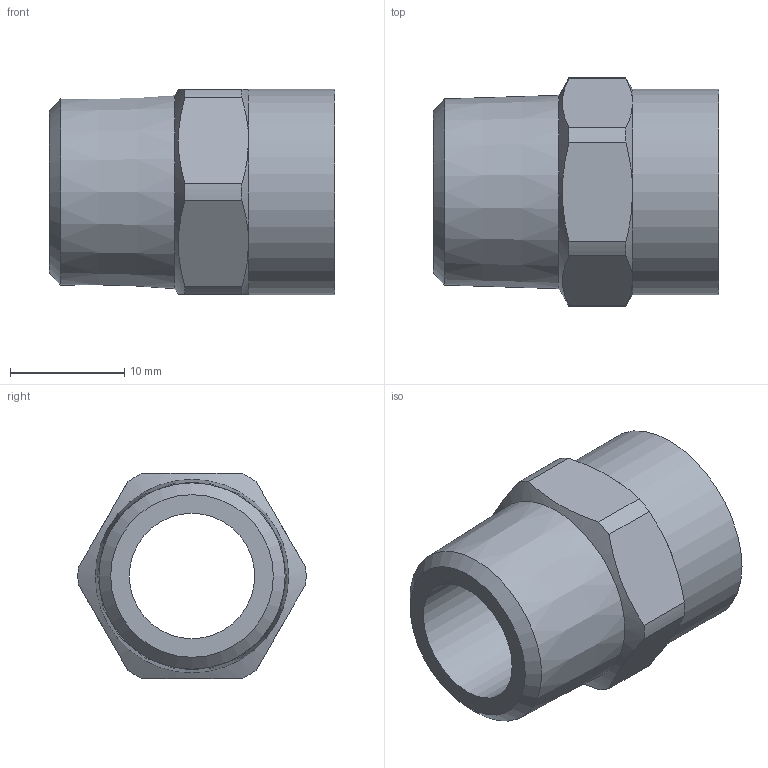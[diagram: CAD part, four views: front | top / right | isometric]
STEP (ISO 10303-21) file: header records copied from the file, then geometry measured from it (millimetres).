
FILE_DESCRIPTION((''),'2;1');
FILE_NAME('\\Lg50001\Groups\SANHA Legnica\Engineering\Public\RYSUNKI\SANHA POLSKA\4243G\step\14243_15-38(2).stp','2008-08-20T12:57:15',('pajchrowski'),(''),'Autodesk Inventor 2008','Autodesk Inventor 2008','');
FILE_SCHEMA(('AUTOMOTIVE_DESIGN { 1 0 10303 214 1 1 1 1 }'));
Length unit declared in the file: millimetre
Products named in the file (1): 14243_15-38(2)
Bounding box: 25 x 20 x 18 mm (x, y, z)
Volume: 2781.4 mm3; surface area: 2679.4 mm2
Topology: 1 solids, 1 shells, 27 faces, 64 edges, 40 vertices
Faces by surface type: plane 9, cone 9, cylinder 9
Full cylindrical faces by diameter (mm): 11 x1, 15 x1, 18 x1
Entity records: 744 total; most frequent: CARTESIAN_POINT 158, DIRECTION 120, ORIENTED_EDGE 112, EDGE_CURVE 56, AXIS2_PLACEMENT_3D 54, VERTEX_POINT 38, EDGE_LOOP 36, FACE_OUTER_BOUND 27
